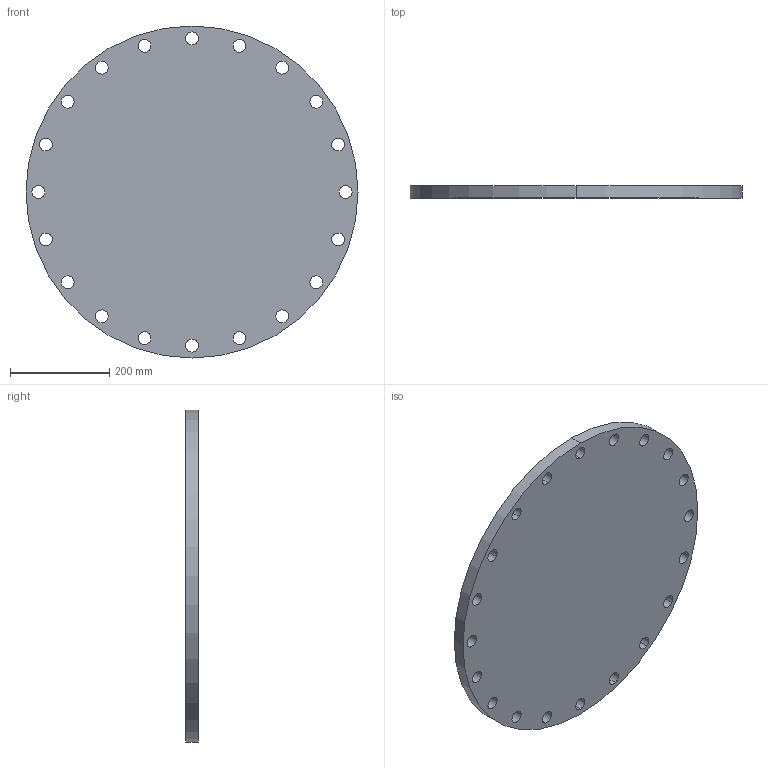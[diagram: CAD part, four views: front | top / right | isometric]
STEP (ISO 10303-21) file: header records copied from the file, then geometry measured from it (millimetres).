
FILE_DESCRIPTION (( 'STEP AP203' ), '1' );
FILE_NAME ('3D_R187_PN10_DN500_176661260_176662260.STEP', '2024-07-10T09:39:16', ( '' ), ( '' ), 'SwSTEP 2.0', 'SolidWorks 2024', '' );
FILE_SCHEMA (( 'CONFIG_CONTROL_DESIGN' ));
Length unit declared in the file: millimetre
Products named in the file (1): 3D_R187_PN10_DN500_176661260_176662260
Bounding box: 670 x 25 x 670 mm (x, y, z)
Volume: 8548666.3 mm3; surface area: 777355.7 mm2
Topology: 1 solids, 1 shells, 44 faces, 126 edges, 84 vertices
Faces by surface type: cylinder 42, plane 2
Entity records: 1651 total; most frequent: DIRECTION 300, CARTESIAN_POINT 255, ORIENTED_EDGE 252, AXIS2_PLACEMENT_3D 129, EDGE_CURVE 126, EDGE_LOOP 84, VERTEX_POINT 84, CIRCLE 84
